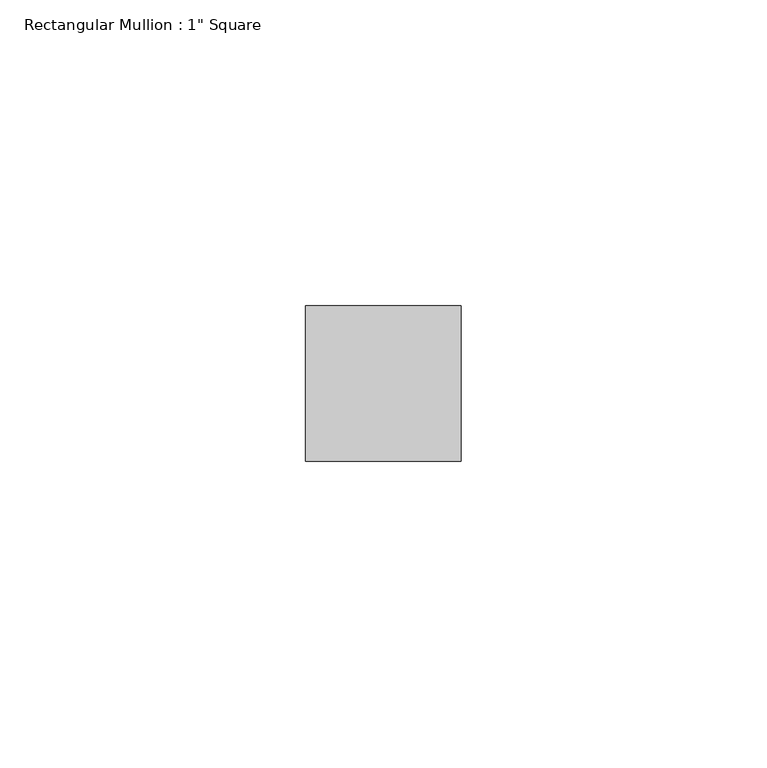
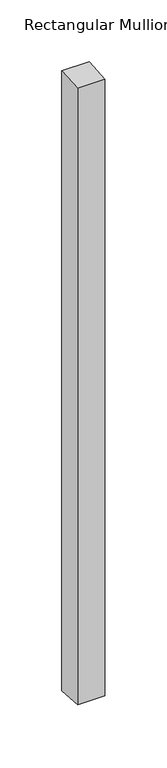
"""IFC4 building model written with IfcOpenShell, lengths in millimetres: member geometry."""

from ifc_helpers import new_model, si_unit, origin, place, context, project, spatial, faceted_brep, source, transform, mapped, element, save


def member_fc38b671(model_context):
    return source(origin(), model_context, "Body", "Brep", [
        faceted_brep([(-25.4, 12.7, 0.776747), (0.0, 12.7, 0.7586874), (0.0, 12.7, -610.3586874), (-25.4, 12.7, -610.376747), (-25.4, -12.7, -0.7406278), (-25.4, -12.7, -608.8593722), (0.0, -12.7, -0.7586874), (0.0, -12.7, -608.8413126)], [[[0, 1, 2, 3]], [[4, 0, 3, 5]], [[6, 4, 5, 7]], [[1, 6, 7, 2]], [[1, 0, 4, 6]], [[2, 7, 5, 3]]]),
    ])


if __name__ == "__main__":
    model = new_model("IFC4")
    model_context = context("Model", 3, world=origin())
    ifc_project = project(units=[si_unit("LENGTHUNIT", "METRE", prefix="MILLI")], contexts=[model_context])
    site = spatial("IfcSite", under=ifc_project)
    building = spatial("IfcBuilding", under=site)
    placement = place(None, origin())
    member_shape = member_fc38b671(model_context)
    element("IfcMember", 1, ObjectType="Rectangular Mullion : 1\" Square", at=placement, inside=building, context=model_context, shape_type="MappedRepresentation", body=[
        mapped(member_shape, transform((0.0, 0.0, 0.0), x_axis=(1.0, 0.0, 0.0), y_axis=(0.0, 1.0, 0.0), z_axis=(0.0, 0.0, 1.0))),
    ])
    save(model, "model.ifc")
